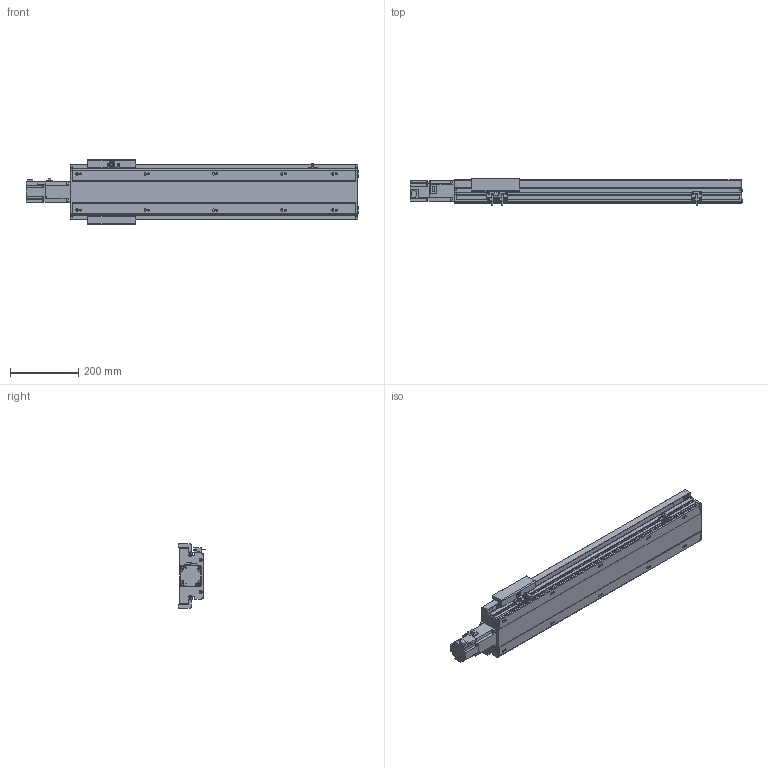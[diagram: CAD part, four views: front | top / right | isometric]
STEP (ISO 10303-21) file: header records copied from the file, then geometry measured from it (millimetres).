
FILE_DESCRIPTION(/* description */ ('STEP AP214'),/* implementation_level */ '2;1');
FILE_NAME(/* name */ 'PSM140-L10-S600-BC-T40-C1-N(0)',/* time_stamp */ '2022-06-13T03:19:27+02:00',/* author */ ('License CC BY-ND 4.0'),/* organization */ ('CADENAS'),/* preprocessor_version */ 'ST-DEVELOPER v18.102',/* originating_system */ 'PARTsolutions',/* authorisation */ ' ');
FILE_SCHEMA (('AUTOMOTIVE_DESIGN {1 0 10303 214 3 1 1}'));
Length unit declared in the file: millimetre
Products named in the file (7): PSM140-L10-S600-BC-T40-C1-N(0); PSM-Sensor; PSM140-S600-842.5; T40-p1; PSM140_body3; PSM140-S600_body1; PSM140-L10-S600-BC-T40-C1-N(0)_dummy
Assembly tree (10 placements, depth 2):
  PSM140-L10-S600-BC-T40-C1-N(0)
    PSM-Sensor  x3
    PSM140-S600-842.5  x3
    T40-p1
    PSM140_body3
    PSM140-S600_body1
    PSM140-L10-S600-BC-T40-C1-N(0)_dummy
Bounding box: 973.7 x 81.3 x 190 mm (x, y, z)
Volume: 4207059.4 mm3; surface area: 893515.7 mm2
Topology: 9 solids, 9 shells, 944 faces, 2495 edges, 1622 vertices
Faces by surface type: plane 624, cylinder 250, cone 56, torus 14
Full cylindrical faces by diameter (mm): 2.8 x3, 4.5 x12, 4.6 x3, 4.917 x18, 5.5 x7, 5.7 x6, 6 x2, 7 x18, 8 x8, 8.5 x4, 10.5 x10, 14 x1, 50 x1
Entity records: 24050 total; most frequent: CARTESIAN_POINT 4295, DIRECTION 4063, ORIENTED_EDGE 3830, EDGE_CURVE 1915, LINE 1357, VECTOR 1357, AXIS2_PLACEMENT_3D 1353, VERTEX_POINT 1340
